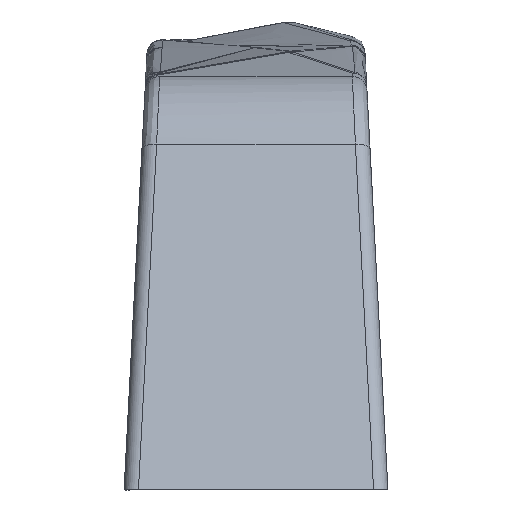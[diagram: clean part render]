
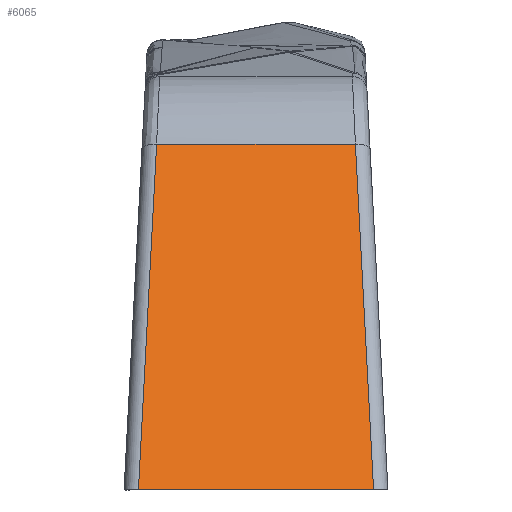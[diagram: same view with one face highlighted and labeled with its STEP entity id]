
A CAD part, left-side view. The second image highlights one B-rep face of the part: STEP entity #6065.
In plain terms, the highlighted planar face has unit normal (-0.907, 0, 0.422).
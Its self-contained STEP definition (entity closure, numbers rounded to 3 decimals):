
#332 = ORIENTED_EDGE ( 'NONE', *, *, #440, .T. ) ;
#440 = EDGE_CURVE ( 'NONE', #2814, #5078, #4066, .T. ) ;
#779 = VECTOR ( 'NONE', #846, 1000. ) ;
#803 = VECTOR ( 'NONE', #3360, 1000. ) ;
#846 = DIRECTION ( 'NONE',  ( 0.421, 0.047, 0.906 ) ) ;
#902 = VERTEX_POINT ( 'NONE', #5934 ) ;
#1019 = AXIS2_PLACEMENT_3D ( 'NONE', #5454, #2177, #6007 ) ;
#1041 = CARTESIAN_POINT ( 'NONE',  ( -77.852, -10.058, 87.073 ) ) ;
#1045 = VECTOR ( 'NONE', #4342, 1000. ) ;
#1079 = ORIENTED_EDGE ( 'NONE', *, *, #2798, .T. ) ;
#1135 = DIRECTION ( 'NONE',  ( 0., 1., 0. ) ) ;
#1235 = ORIENTED_EDGE ( 'NONE', *, *, #6380, .T. ) ;
#1622 = PLANE ( 'NONE',  #1019 ) ;
#1938 = VERTEX_POINT ( 'NONE', #1041 ) ;
#2177 = DIRECTION ( 'NONE',  ( 0.907, 0., -0.422 ) ) ;
#2476 = VECTOR ( 'NONE', #1135, 1000. ) ;
#2798 = EDGE_CURVE ( 'NONE', #1938, #2814, #6949, .T. ) ;
#2814 = VERTEX_POINT ( 'NONE', #3019 ) ;
#2816 = CARTESIAN_POINT ( 'NONE',  ( -77.872, 5.986, 87.031 ) ) ;
#3019 = CARTESIAN_POINT ( 'NONE',  ( -66.873, -8.82, 110.679 ) ) ;
#3141 = EDGE_LOOP ( 'NONE', ( #332, #5115, #1235, #1079 ) ) ;
#3166 = CARTESIAN_POINT ( 'NONE',  ( -66.873, 4.747, 110.679 ) ) ;
#3358 = LINE ( 'NONE', #2816, #803 ) ;
#3360 = DIRECTION ( 'NONE',  ( -0.421, 0.047, -0.906 ) ) ;
#4066 = LINE ( 'NONE', #6612, #2476 ) ;
#4106 = CARTESIAN_POINT ( 'NONE',  ( -66.892, -8.823, 110.637 ) ) ;
#4342 = DIRECTION ( 'NONE',  ( 0., -1., 0. ) ) ;
#4447 = FACE_OUTER_BOUND ( 'NONE', #3141, .T. ) ;
#5078 = VERTEX_POINT ( 'NONE', #3166 ) ;
#5115 = ORIENTED_EDGE ( 'NONE', *, *, #5674, .T. ) ;
#5398 = LINE ( 'NONE', #6039, #1045 ) ;
#5454 = CARTESIAN_POINT ( 'NONE',  ( -66.873, -11.037, 110.679 ) ) ;
#5674 = EDGE_CURVE ( 'NONE', #5078, #902, #3358, .T. ) ;
#5934 = CARTESIAN_POINT ( 'NONE',  ( -77.852, 5.984, 87.073 ) ) ;
#6007 = DIRECTION ( 'NONE',  ( -0.422, 0., -0.907 ) ) ;
#6039 = CARTESIAN_POINT ( 'NONE',  ( -77.852, 6.963, 87.073 ) ) ;
#6065 = ADVANCED_FACE ( 'NONE', ( #4447 ), #1622, .F. ) ;
#6380 = EDGE_CURVE ( 'NONE', #902, #1938, #5398, .T. ) ;
#6612 = CARTESIAN_POINT ( 'NONE',  ( -66.873, -11.037, 110.679 ) ) ;
#6949 = LINE ( 'NONE', #4106, #779 ) ;
